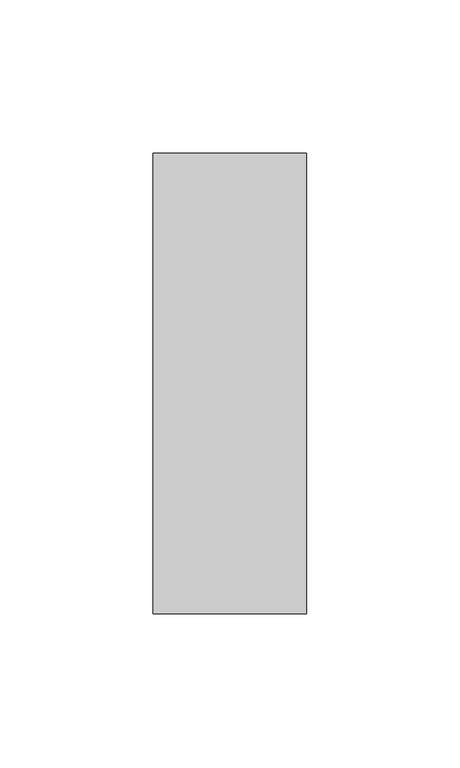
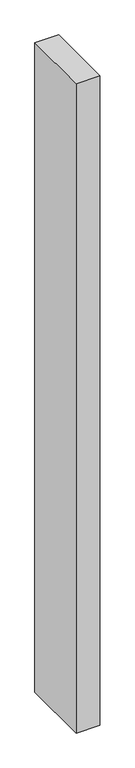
"""IFC4 building model written with IfcOpenShell, lengths in millimetres: member geometry, Прямоугольный импост : 50 x 150 мм."""

from ifc_helpers import new_model, si_unit, frame, origin, place, context, project, spatial, polyline, outline, extrude, source, transform, mapped, element, save


def member_2faca011(model_context):
    return source(origin(), model_context, "Body", "SweptSolid", [
        extrude(outline(polyline([(25.0, 75.0), (25.0, -75.0), (-25.0, -75.0), (-25.0, 75.0), (25.0, 75.0)])), frame((0.0, 0.0, -1447.1792658), z_axis=(0.0, 0.0, 1.0), x_axis=(1.0, 0.0, 0.0)), (0.0, 0.0, 1.0), 1447.1792658),
    ])


if __name__ == "__main__":
    model = new_model("IFC4")
    model_context = context("Model", 3, world=origin())
    ifc_project = project(units=[si_unit("LENGTHUNIT", "METRE", prefix="MILLI")], contexts=[model_context])
    site = spatial("IfcSite", under=ifc_project)
    building = spatial("IfcBuilding", under=site)
    placement = place(None, origin())
    member_shape = member_2faca011(model_context)
    element("IfcMember", 1, ObjectType="Прямоугольный импост : 50 x 150 мм", at=placement, inside=building, context=model_context, shape_type="MappedRepresentation", body=[
        mapped(member_shape, transform((0.0, 0.0, 0.0), x_axis=(1.0, 0.0, 0.0), y_axis=(0.0, 1.0, 0.0), z_axis=(0.0, 0.0, 1.0))),
    ])
    save(model, "model.ifc")
